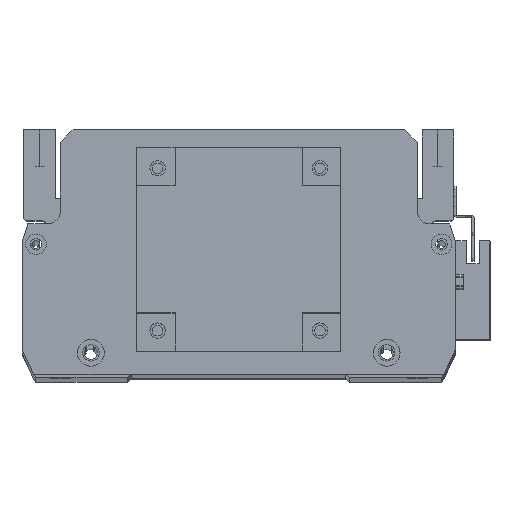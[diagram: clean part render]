
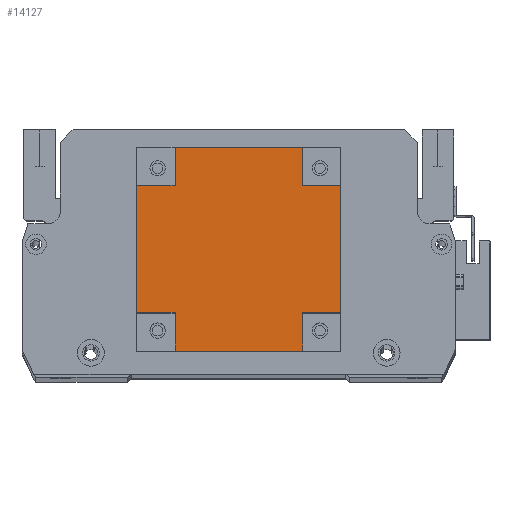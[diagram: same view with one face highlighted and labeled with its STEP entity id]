
A CAD part, top view. The second image highlights one B-rep face of the part: STEP entity #14127.
In plain terms, the highlighted planar face has unit normal (0, 0, 1).
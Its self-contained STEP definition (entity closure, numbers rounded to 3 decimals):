
#35 = LINE ( 'NONE', #11150, #10695 ) ;
#755 = EDGE_CURVE ( 'NONE', #20311, #8349, #22661, .T. ) ;
#1008 = EDGE_CURVE ( 'NONE', #11390, #3794, #25919, .T. ) ;
#1160 = CARTESIAN_POINT ( 'NONE',  ( 0., 0., 101.5 ) ) ;
#1183 = EDGE_CURVE ( 'NONE', #6044, #26759, #13887, .T. ) ;
#1452 = EDGE_CURVE ( 'NONE', #5760, #20895, #25541, .T. ) ;
#1579 = EDGE_CURVE ( 'NONE', #21391, #20895, #35, .T. ) ;
#1590 = EDGE_CURVE ( 'NONE', #20311, #21391, #5142, .T. ) ;
#1619 = EDGE_CURVE ( 'NONE', #11354, #8349, #8102, .T. ) ;
#1676 = EDGE_CURVE ( 'NONE', #11390, #11354, #21957, .T. ) ;
#1704 = EDGE_CURVE ( 'NONE', #8643, #3794, #15803, .T. ) ;
#1715 = EDGE_CURVE ( 'NONE', #6044, #8643, #20014, .T. ) ;
#1744 = ORIENTED_EDGE ( 'NONE', *, *, #1676, .F. ) ;
#1755 = EDGE_CURVE ( 'NONE', #10431, #26759, #19369, .T. ) ;
#1765 = EDGE_CURVE ( 'NONE', #5760, #10431, #12553, .T. ) ;
#1920 = ORIENTED_EDGE ( 'NONE', *, *, #1183, .T. ) ;
#2528 = VECTOR ( 'NONE', #3230, 1000. ) ;
#2861 = VECTOR ( 'NONE', #20397, 1000. ) ;
#3230 = DIRECTION ( 'NONE',  ( -1., 0., 0. ) ) ;
#3377 = DIRECTION ( 'NONE',  ( 1., 0., 0. ) ) ;
#3794 = VERTEX_POINT ( 'NONE', #14110 ) ;
#4443 = CARTESIAN_POINT ( 'NONE',  ( 0., 0., 101.5 ) ) ;
#4804 = VECTOR ( 'NONE', #9904, 1000. ) ;
#5035 = CARTESIAN_POINT ( 'NONE',  ( 0., 65., 101.5 ) ) ;
#5069 = ORIENTED_EDGE ( 'NONE', *, *, #1755, .F. ) ;
#5142 = LINE ( 'NONE', #5035, #20990 ) ;
#5209 = ORIENTED_EDGE ( 'NONE', *, *, #1715, .F. ) ;
#5760 = VERTEX_POINT ( 'NONE', #10474 ) ;
#5953 = CARTESIAN_POINT ( 'NONE',  ( 65., 65., 101.5 ) ) ;
#6011 = FACE_OUTER_BOUND ( 'NONE', #8138, .T. ) ;
#6044 = VERTEX_POINT ( 'NONE', #17469 ) ;
#6094 = AXIS2_PLACEMENT_3D ( 'NONE', #4443, #19015, #6601 ) ;
#6601 = DIRECTION ( 'NONE',  ( -1., 0., 0. ) ) ;
#7709 = CARTESIAN_POINT ( 'NONE',  ( 15., 0., 101.5 ) ) ;
#8102 = LINE ( 'NONE', #13514, #2528 ) ;
#8138 = EDGE_LOOP ( 'NONE', ( #23959, #17856, #11426, #23700, #24115, #1744, #13851, #10113, #5209, #1920, #5069, #24822 ) ) ;
#8235 = CARTESIAN_POINT ( 'NONE',  ( 0., 0., 101.5 ) ) ;
#8349 = VERTEX_POINT ( 'NONE', #26408 ) ;
#8643 = VERTEX_POINT ( 'NONE', #21045 ) ;
#8883 = CARTESIAN_POINT ( 'NONE',  ( 15., 15., 101.5 ) ) ;
#9101 = VECTOR ( 'NONE', #24386, 1000. ) ;
#9904 = DIRECTION ( 'NONE',  ( 0., -1., 0. ) ) ;
#10079 = CARTESIAN_POINT ( 'NONE',  ( 65., 65., 101.5 ) ) ;
#10113 = ORIENTED_EDGE ( 'NONE', *, *, #1704, .F. ) ;
#10431 = VERTEX_POINT ( 'NONE', #5953 ) ;
#10474 = CARTESIAN_POINT ( 'NONE',  ( 65., 80., 101.5 ) ) ;
#10544 = CARTESIAN_POINT ( 'NONE',  ( 80., 0., 101.5 ) ) ;
#10695 = VECTOR ( 'NONE', #13170, 1000. ) ;
#11150 = CARTESIAN_POINT ( 'NONE',  ( 15., 80., 101.5 ) ) ;
#11354 = VERTEX_POINT ( 'NONE', #8883 ) ;
#11390 = VERTEX_POINT ( 'NONE', #25534 ) ;
#11426 = ORIENTED_EDGE ( 'NONE', *, *, #1590, .F. ) ;
#11846 = DIRECTION ( 'NONE',  ( 0., 1., 0. ) ) ;
#12376 = CARTESIAN_POINT ( 'NONE',  ( 0., 80., 101.5 ) ) ;
#12553 = LINE ( 'NONE', #24647, #18728 ) ;
#12584 = CARTESIAN_POINT ( 'NONE',  ( 80., 65., 101.5 ) ) ;
#13170 = DIRECTION ( 'NONE',  ( 0., 1., 0. ) ) ;
#13325 = CARTESIAN_POINT ( 'NONE',  ( 15., 65., 101.5 ) ) ;
#13514 = CARTESIAN_POINT ( 'NONE',  ( 0., 15., 101.5 ) ) ;
#13851 = ORIENTED_EDGE ( 'NONE', *, *, #1008, .T. ) ;
#13856 = CARTESIAN_POINT ( 'NONE',  ( 65., 0., 101.5 ) ) ;
#13887 = LINE ( 'NONE', #10544, #18781 ) ;
#14110 = CARTESIAN_POINT ( 'NONE',  ( 65., 0., 101.5 ) ) ;
#14127 = ADVANCED_FACE ( 'NONE', ( #6011 ), #25145, .F. ) ;
#14215 = VECTOR ( 'NONE', #3377, 1000. ) ;
#14523 = DIRECTION ( 'NONE',  ( 0., 1., 0. ) ) ;
#15183 = VECTOR ( 'NONE', #24762, 1000. ) ;
#15803 = LINE ( 'NONE', #13856, #4804 ) ;
#16451 = VECTOR ( 'NONE', #11846, 1000. ) ;
#17469 = CARTESIAN_POINT ( 'NONE',  ( 80., 15., 101.5 ) ) ;
#17856 = ORIENTED_EDGE ( 'NONE', *, *, #1579, .F. ) ;
#18594 = DIRECTION ( 'NONE',  ( 0., -1., 0. ) ) ;
#18728 = VECTOR ( 'NONE', #22542, 1000. ) ;
#18781 = VECTOR ( 'NONE', #14523, 1000. ) ;
#19015 = DIRECTION ( 'NONE',  ( 0., 0., -1. ) ) ;
#19369 = LINE ( 'NONE', #10079, #2861 ) ;
#20014 = LINE ( 'NONE', #22198, #9101 ) ;
#20311 = VERTEX_POINT ( 'NONE', #26579 ) ;
#20397 = DIRECTION ( 'NONE',  ( 1., 0., 0. ) ) ;
#20895 = VERTEX_POINT ( 'NONE', #22370 ) ;
#20990 = VECTOR ( 'NONE', #21585, 1000. ) ;
#21045 = CARTESIAN_POINT ( 'NONE',  ( 65., 15., 101.5 ) ) ;
#21391 = VERTEX_POINT ( 'NONE', #13325 ) ;
#21585 = DIRECTION ( 'NONE',  ( 1., 0., 0. ) ) ;
#21957 = LINE ( 'NONE', #7709, #16451 ) ;
#22036 = VECTOR ( 'NONE', #18594, 1000. ) ;
#22198 = CARTESIAN_POINT ( 'NONE',  ( 80., 15., 101.5 ) ) ;
#22370 = CARTESIAN_POINT ( 'NONE',  ( 15., 80., 101.5 ) ) ;
#22542 = DIRECTION ( 'NONE',  ( 0., -1., 0. ) ) ;
#22661 = LINE ( 'NONE', #8235, #22036 ) ;
#23700 = ORIENTED_EDGE ( 'NONE', *, *, #755, .T. ) ;
#23959 = ORIENTED_EDGE ( 'NONE', *, *, #1452, .T. ) ;
#24115 = ORIENTED_EDGE ( 'NONE', *, *, #1619, .F. ) ;
#24386 = DIRECTION ( 'NONE',  ( -1., 0., 0. ) ) ;
#24647 = CARTESIAN_POINT ( 'NONE',  ( 65., 80., 101.5 ) ) ;
#24762 = DIRECTION ( 'NONE',  ( -1., 0., 0. ) ) ;
#24822 = ORIENTED_EDGE ( 'NONE', *, *, #1765, .F. ) ;
#25145 = PLANE ( 'NONE',  #6094 ) ;
#25534 = CARTESIAN_POINT ( 'NONE',  ( 15., 0., 101.5 ) ) ;
#25541 = LINE ( 'NONE', #12376, #15183 ) ;
#25919 = LINE ( 'NONE', #1160, #14215 ) ;
#26408 = CARTESIAN_POINT ( 'NONE',  ( 0., 15., 101.5 ) ) ;
#26579 = CARTESIAN_POINT ( 'NONE',  ( 0., 65., 101.5 ) ) ;
#26759 = VERTEX_POINT ( 'NONE', #12584 ) ;
